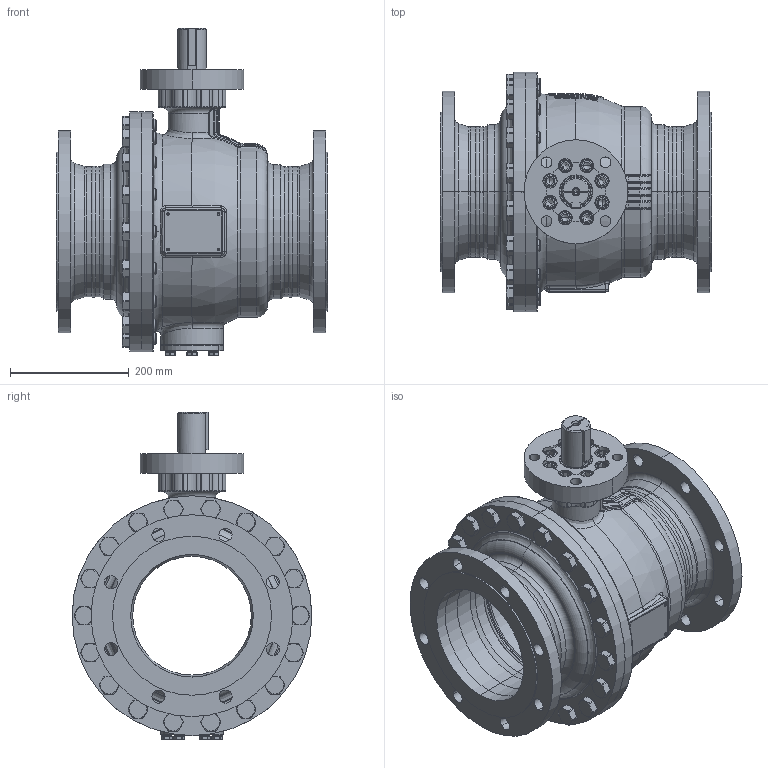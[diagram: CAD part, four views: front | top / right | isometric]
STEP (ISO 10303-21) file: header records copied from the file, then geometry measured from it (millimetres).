
FILE_DESCRIPTION((''),'2;1');
FILE_NAME('KHI-F_200_PN010-F14-P_SW0001','2026-02-05T12:49:39',('fischerkl'),('KLINGER'),'CREO PARAMETRIC BY PTC INC, 2023014','CREO PARAMETRIC BY PTC INC, 2023014','');
FILE_SCHEMA(('CONFIG_CONTROL_DESIGN'));
Products named in the file (1): KHI-F_200_PN010-F14-P_SW0001
Bounding box: 457 x 404 x 552.2 mm (x, y, z)
Volume: 12703732.7 mm3; surface area: 2250328.2 mm2
Topology: 1 solids, 4 shells, 2922 faces, 7316 edges, 4534 vertices
Faces by surface type: plane 1413, cylinder 708, cone 360, torus 303, bspline 108, sphere 30
Entity records: 120531 total; most frequent: CARTESIAN_POINT 51543, ORIENTED_EDGE 14580, DIRECTION 14304, EDGE_CURVE 7290, AXIS2_PLACEMENT_3D 5514, VERTEX_POINT 4534, VECTOR 3276, LINE 3276
